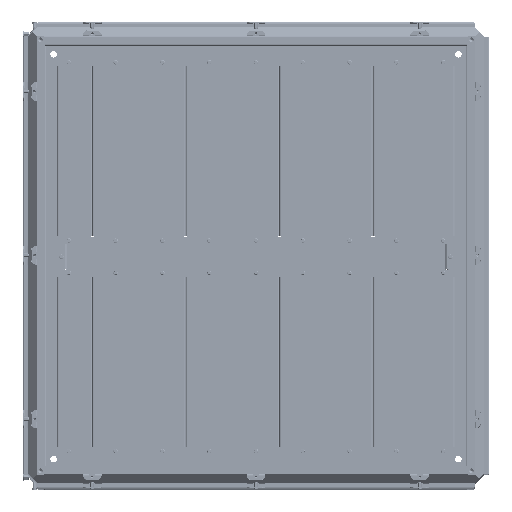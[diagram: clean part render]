
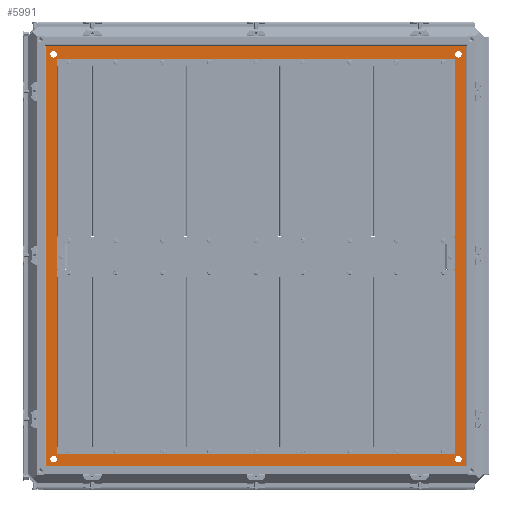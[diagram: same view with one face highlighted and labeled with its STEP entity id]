
A CAD part, top view. The second image highlights one B-rep face of the part: STEP entity #5991.
In plain terms, the highlighted planar face has unit normal (0, 0, 1).
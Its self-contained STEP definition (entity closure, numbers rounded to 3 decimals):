
#5991=ADVANCED_FACE('',(#21043,#21045,#21047,#21049,#21051,#21053),#21055,.F.);
#21043=FACE_BOUND('',#21044,.T.);
#21044=EDGE_LOOP('',(#139225,#139226,#139227,#139228));
#21045=FACE_BOUND('',#21046,.T.);
#21046=EDGE_LOOP('',(#139229,#139230,#139231,#139232));
#21047=FACE_BOUND('',#21048,.T.);
#21048=EDGE_LOOP('',(#139233));
#21049=FACE_BOUND('',#21050,.T.);
#21050=EDGE_LOOP('',(#139234));
#21051=FACE_BOUND('',#21052,.T.);
#21052=EDGE_LOOP('',(#139235));
#21053=FACE_BOUND('',#21054,.T.);
#21054=EDGE_LOOP('',(#139236));
#21055=PLANE('',#21056);
#21056=AXIS2_PLACEMENT_3D('',#21057,#21058,#21059);
#21057=CARTESIAN_POINT('',(0.,0.,-47.5));
#21058=DIRECTION('',(0.,0.,-1.));
#21059=DIRECTION('',(0.,1.,0.));
#139225=ORIENTED_EDGE('',*,*,#210687,.F.);
#139226=ORIENTED_EDGE('',*,*,#210688,.F.);
#139227=ORIENTED_EDGE('',*,*,#210689,.T.);
#139228=ORIENTED_EDGE('',*,*,#210690,.T.);
#139229=ORIENTED_EDGE('',*,*,#210691,.T.);
#139230=ORIENTED_EDGE('',*,*,#210692,.F.);
#139231=ORIENTED_EDGE('',*,*,#210693,.F.);
#139232=ORIENTED_EDGE('',*,*,#210694,.F.);
#139233=ORIENTED_EDGE('',*,*,#210695,.T.);
#139234=ORIENTED_EDGE('',*,*,#210696,.F.);
#139235=ORIENTED_EDGE('',*,*,#210697,.F.);
#139236=ORIENTED_EDGE('',*,*,#210698,.T.);
#210687=EDGE_CURVE('',#247382,#247383,#247384,.F.);
#210688=EDGE_CURVE('',#247385,#247382,#247386,.F.);
#210689=EDGE_CURVE('',#247385,#247387,#247388,.F.);
#210690=EDGE_CURVE('',#247387,#247383,#247389,.F.);
#210691=EDGE_CURVE('',#247390,#247391,#247392,.F.);
#210692=EDGE_CURVE('',#247393,#247391,#247394,.F.);
#210693=EDGE_CURVE('',#247395,#247393,#247396,.F.);
#210694=EDGE_CURVE('',#247390,#247395,#247397,.F.);
#210695=EDGE_CURVE('',#247398,#247398,#247399,.T.);
#210696=EDGE_CURVE('',#247400,#247400,#247401,.T.);
#210697=EDGE_CURVE('',#247402,#247402,#247403,.T.);
#210698=EDGE_CURVE('',#247404,#247404,#247405,.T.);
#247382=VERTEX_POINT('',#311215);
#247383=VERTEX_POINT('',#311216);
#247384=LINE('',#311217,#311218);
#247385=VERTEX_POINT('',#311220);
#247386=LINE('',#311221,#311222);
#247387=VERTEX_POINT('',#311224);
#247388=LINE('',#311225,#311226);
#247389=LINE('',#311228,#311229);
#247390=VERTEX_POINT('',#311231);
#247391=VERTEX_POINT('',#311232);
#247392=LINE('',#311233,#311234);
#247393=VERTEX_POINT('',#311236);
#247394=LINE('',#311237,#311238);
#247395=VERTEX_POINT('',#311240);
#247396=LINE('',#311241,#311242);
#247397=LINE('',#311244,#311245);
#247398=VERTEX_POINT('',#311247);
#247399=CIRCLE('',#311248,7.);
#247400=VERTEX_POINT('',#311252);
#247401=CIRCLE('',#311253,7.);
#247402=VERTEX_POINT('',#311257);
#247403=CIRCLE('',#311258,7.);
#247404=VERTEX_POINT('',#311262);
#247405=CIRCLE('',#311263,7.);
#311215=CARTESIAN_POINT('',(-1.6,1.6,-47.5));
#311216=CARTESIAN_POINT('',(-900.4,1.6,-47.5));
#311217=CARTESIAN_POINT('',(-900.4,1.6,-47.5));
#311218=VECTOR('',#311219,1.);
#311219=DIRECTION('',(1.,0.,0.));
#311220=CARTESIAN_POINT('',(-1.6,900.4,-47.5));
#311221=CARTESIAN_POINT('',(-1.6,1.6,-47.5));
#311222=VECTOR('',#311223,1.);
#311223=DIRECTION('',(0.,1.,0.));
#311224=CARTESIAN_POINT('',(-900.4,900.4,-47.5));
#311225=CARTESIAN_POINT('',(-900.4,900.4,-47.5));
#311226=VECTOR('',#311227,1.);
#311227=DIRECTION('',(1.,0.,0.));
#311228=CARTESIAN_POINT('',(-900.4,1.6,-47.5));
#311229=VECTOR('',#311230,1.);
#311230=DIRECTION('',(0.,1.,0.));
#311231=CARTESIAN_POINT('',(-39.4,39.4,-47.5));
#311232=CARTESIAN_POINT('',(-862.6,39.4,-47.5));
#311233=CARTESIAN_POINT('',(-862.6,39.4,-47.5));
#311234=VECTOR('',#311235,1.);
#311235=DIRECTION('',(1.,0.,0.));
#311236=CARTESIAN_POINT('',(-862.6,862.6,-47.5));
#311237=CARTESIAN_POINT('',(-862.6,39.4,-47.5));
#311238=VECTOR('',#311239,1.);
#311239=DIRECTION('',(0.,1.,0.));
#311240=CARTESIAN_POINT('',(-39.4,862.6,-47.5));
#311241=CARTESIAN_POINT('',(-862.6,862.6,-47.5));
#311242=VECTOR('',#311243,1.);
#311243=DIRECTION('',(1.,0.,0.));
#311244=CARTESIAN_POINT('',(-39.4,862.6,-47.5));
#311245=VECTOR('',#311246,1.);
#311246=DIRECTION('',(0.,-1.,0.));
#311247=CARTESIAN_POINT('',(-18.5,25.5,-47.5));
#311248=AXIS2_PLACEMENT_3D('',#311249,#311250,#311251);
#311249=CARTESIAN_POINT('',(-18.5,18.5,-47.5));
#311250=DIRECTION('',(0.,0.,-1.));
#311251=DIRECTION('',(0.,1.,0.));
#311252=CARTESIAN_POINT('',(-883.5,25.5,-47.5));
#311253=AXIS2_PLACEMENT_3D('',#311254,#311255,#311256);
#311254=CARTESIAN_POINT('',(-883.5,18.5,-47.5));
#311255=DIRECTION('',(0.,0.,1.));
#311256=DIRECTION('',(0.,1.,0.));
#311257=CARTESIAN_POINT('',(-18.5,876.5,-47.5));
#311258=AXIS2_PLACEMENT_3D('',#311259,#311260,#311261);
#311259=CARTESIAN_POINT('',(-18.5,883.5,-47.5));
#311260=DIRECTION('',(0.,0.,1.));
#311261=DIRECTION('',(0.,-1.,0.));
#311262=CARTESIAN_POINT('',(-883.5,876.5,-47.5));
#311263=AXIS2_PLACEMENT_3D('',#311264,#311265,#311266);
#311264=CARTESIAN_POINT('',(-883.5,883.5,-47.5));
#311265=DIRECTION('',(0.,0.,-1.));
#311266=DIRECTION('',(0.,-1.,0.));
